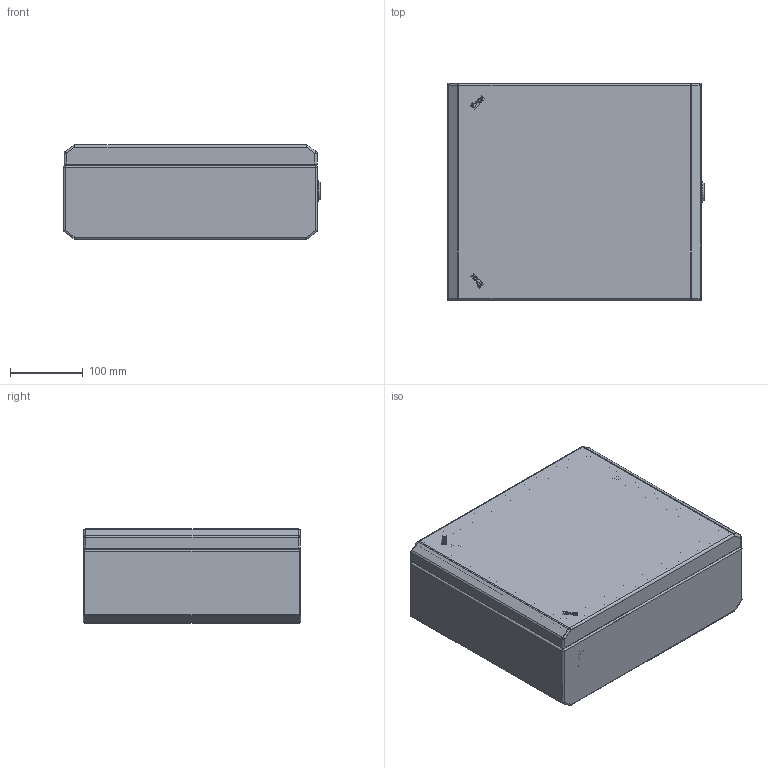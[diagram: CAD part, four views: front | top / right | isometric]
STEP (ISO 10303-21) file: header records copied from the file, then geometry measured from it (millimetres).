
FILE_DESCRIPTION (( 'STEP AP203' ), '1' );
FILE_NAME ('BK33A-COM.step', '2023-09-19T13:19:39', ( '' ), ( '' ), 'SwSTEP 2.0', 'SolidWorks 2021', '' );
FILE_SCHEMA (( 'CONFIG_CONTROL_DESIGN' ));
Length unit declared in the file: millimetre
Products named in the file (19): Porte Box BK33-BK75M_POBK33;  1000-U134^ SG215S_Assiemi Box serie BK33-BK75M; BK33A-COM; OLD-ADMT_ADMT; Parte7^ SG215S_Assiemi Box serie BK33-BK75M;  SG215S^Assiemi Box serie BK33-BK75M_Chiusura_BASSO; 1000-156-01^1000-u183_ SG215S_Assiemi Box serie BK33-BK75M; Guarnizione Schiumata 13x6.5_GBK33-GBK33M; Scarpetta Box serie BK; LOGO_ILINOX; PRM615TL316; 1000-277-01PI^1000-u183_ SG215S_Assiemi Box serie BK33-BK75M; Staffa Serraggio Box BK_SSBKH300; 1000-24^1000-u183_ SG215S_Assiemi Box serie BK33-BK75M; 1000-03-PG^1000-u183_ SG215S_Assiemi Box serie BK33-BK75M; Fasciame FABK33- FABK75M_FABK33; 1000-02-RA_1^ 1000-U134_ SG215S_Assiemi Box serie BK33-BK75M; 1000-101-GPF_GPD_1^ 1000-U134_ SG215S_Assiemi Box serie BK33-BK75M; 1000-u183^ SG215S_Assiemi Box serie BK33-BK75M
Assembly tree (23 placements, depth 4):
  BK33A-COM
    Fasciame FABK33- FABK75M_FABK33
    Porte Box BK33-BK75M_POBK33
    Guarnizione Schiumata 13x6.5_GBK33-GBK33M
    Staffa Serraggio Box BK_SSBKH300
    Scarpetta Box serie BK
     SG215S^Assiemi Box serie BK33-BK75M_Chiusura_BASSO
       1000-U134^ SG215S_Assiemi Box serie BK33-BK75M
        1000-101-GPF_GPD_1^ 1000-U134_ SG215S_Assiemi Box serie BK33-BK75M
        1000-02-RA_1^ 1000-U134_ SG215S_Assiemi Box serie BK33-BK75M
      1000-u183^ SG215S_Assiemi Box serie BK33-BK75M
        1000-156-01^1000-u183_ SG215S_Assiemi Box serie BK33-BK75M
        1000-03-PG^1000-u183_ SG215S_Assiemi Box serie BK33-BK75M
        1000-24^1000-u183_ SG215S_Assiemi Box serie BK33-BK75M
        1000-277-01PI^1000-u183_ SG215S_Assiemi Box serie BK33-BK75M
      Parte7^ SG215S_Assiemi Box serie BK33-BK75M
    OLD-ADMT_ADMT  x2
    LOGO_ILINOX  x2
    PRM615TL316  x4
Bounding box: 354 x 300 x 130.1 mm (x, y, z)
Volume: 707101.9 mm3; surface area: 879840.4 mm2
Topology: 36 solids, 37 shells, 870 faces, 2047 edges, 1244 vertices
Faces by surface type: plane 455, cylinder 306, sphere 40, cone 40, bspline 29
Entity records: 25678 total; most frequent: CARTESIAN_POINT 6476, DIRECTION 3687, ORIENTED_EDGE 3443, EDGE_CURVE 1725, AXIS2_PLACEMENT_3D 1353, VERTEX_POINT 1062, VECTOR 981, LINE 981
